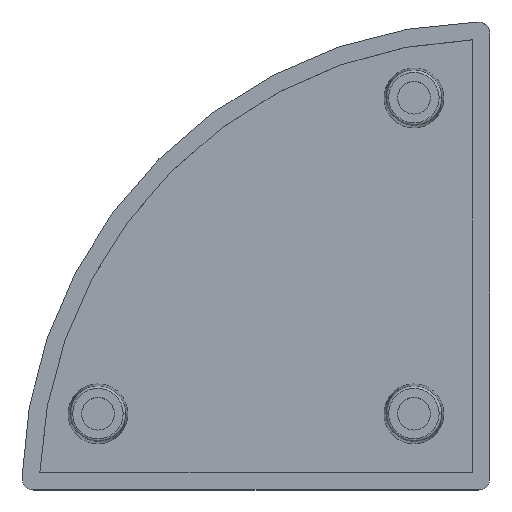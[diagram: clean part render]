
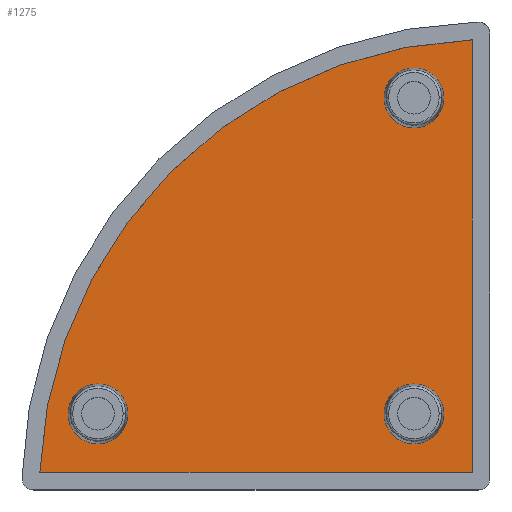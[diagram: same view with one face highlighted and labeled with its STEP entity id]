
A CAD part, top view. The second image highlights one B-rep face of the part: STEP entity #1275.
In plain terms, the highlighted planar face has unit normal (0, 0, 1).
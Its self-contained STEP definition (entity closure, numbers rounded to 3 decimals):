
#9 = EDGE_CURVE ( 'NONE', #228, #203, #1057, .T. ) ;
#30 = EDGE_CURVE ( 'NONE', #1172, #300, #1003, .T. ) ;
#90 = EDGE_CURVE ( 'NONE', #203, #228, #949, .T. ) ;
#94 = VERTEX_POINT ( 'NONE', #1222 ) ;
#138 = CARTESIAN_POINT ( 'NONE',  ( -1.5, 1.5, 1.5 ) ) ;
#147 = CARTESIAN_POINT ( 'NONE',  ( -6.5, 6.5, 1.5 ) ) ;
#148 = DIRECTION ( 'NONE',  ( 0., 0., 1. ) ) ;
#149 = EDGE_CURVE ( 'NONE', #1341, #286, #902, .T. ) ;
#153 = VERTEX_POINT ( 'NONE', #305 ) ;
#164 = VECTOR ( 'NONE', #694, 1000. ) ;
#183 = ORIENTED_EDGE ( 'NONE', *, *, #30, .T. ) ;
#185 = AXIS2_PLACEMENT_3D ( 'NONE', #1295, #1290, #1327 ) ;
#199 = LINE ( 'NONE', #386, #164 ) ;
#203 = VERTEX_POINT ( 'NONE', #888 ) ;
#205 = CARTESIAN_POINT ( 'NONE',  ( -33.5, 6.5, 1.5 ) ) ;
#228 = VERTEX_POINT ( 'NONE', #1179 ) ;
#240 = DIRECTION ( 'NONE',  ( 1., 0., 0. ) ) ;
#248 = EDGE_CURVE ( 'NONE', #94, #1172, #775, .T. ) ;
#266 = ORIENTED_EDGE ( 'NONE', *, *, #638, .F. ) ;
#276 = CIRCLE ( 'NONE', #1224, 2.55 ) ;
#284 = FACE_BOUND ( 'NONE', #637, .T. ) ;
#286 = VERTEX_POINT ( 'NONE', #989 ) ;
#300 = VERTEX_POINT ( 'NONE', #138 ) ;
#305 = CARTESIAN_POINT ( 'NONE',  ( -30.95, 6.5, 1.5 ) ) ;
#330 = CARTESIAN_POINT ( 'NONE',  ( 0., 0., 1.5 ) ) ;
#335 = PLANE ( 'NONE',  #434 ) ;
#339 = DIRECTION ( 'NONE',  ( 1., 0., 0. ) ) ;
#367 = CIRCLE ( 'NONE', #700, 2.55 ) ;
#370 = DIRECTION ( 'NONE',  ( 1., 0., 0. ) ) ;
#371 = FACE_OUTER_BOUND ( 'NONE', #642, .T. ) ;
#374 = DIRECTION ( 'NONE',  ( 1., 0., 0. ) ) ;
#378 = DIRECTION ( 'NONE',  ( 0., 0., 1. ) ) ;
#383 = EDGE_CURVE ( 'NONE', #1362, #153, #516, .T. ) ;
#386 = CARTESIAN_POINT ( 'NONE',  ( -1.5, 1.5, 1.5 ) ) ;
#388 = FACE_BOUND ( 'NONE', #1050, .T. ) ;
#404 = DIRECTION ( 'NONE',  ( 1., 0., 0. ) ) ;
#431 = DIRECTION ( 'NONE',  ( 0., 0., 1. ) ) ;
#434 = AXIS2_PLACEMENT_3D ( 'NONE', #330, #148, #339 ) ;
#516 = CIRCLE ( 'NONE', #756, 2.55 ) ;
#531 = ORIENTED_EDGE ( 'NONE', *, *, #149, .F. ) ;
#539 = ORIENTED_EDGE ( 'NONE', *, *, #248, .T. ) ;
#547 = ORIENTED_EDGE ( 'NONE', *, *, #90, .F. ) ;
#616 = EDGE_CURVE ( 'NONE', #153, #1362, #367, .T. ) ;
#630 = DIRECTION ( 'NONE',  ( 1., 0., 0. ) ) ;
#636 = EDGE_LOOP ( 'NONE', ( #547, #874 ) ) ;
#637 = EDGE_LOOP ( 'NONE', ( #899, #816 ) ) ;
#638 = EDGE_CURVE ( 'NONE', #286, #1341, #276, .T. ) ;
#642 = EDGE_LOOP ( 'NONE', ( #539, #183, #664 ) ) ;
#664 = ORIENTED_EDGE ( 'NONE', *, *, #699, .T. ) ;
#694 = DIRECTION ( 'NONE',  ( 0., 1., 0. ) ) ;
#699 = EDGE_CURVE ( 'NONE', #300, #94, #199, .T. ) ;
#700 = AXIS2_PLACEMENT_3D ( 'NONE', #205, #378, #374 ) ;
#756 = AXIS2_PLACEMENT_3D ( 'NONE', #763, #1180, #370 ) ;
#763 = CARTESIAN_POINT ( 'NONE',  ( -33.5, 6.5, 1.5 ) ) ;
#775 = CIRCLE ( 'NONE', #974, 38.5 ) ;
#816 = ORIENTED_EDGE ( 'NONE', *, *, #616, .F. ) ;
#874 = ORIENTED_EDGE ( 'NONE', *, *, #9, .F. ) ;
#876 = FACE_BOUND ( 'NONE', #636, .T. ) ;
#879 = DIRECTION ( 'NONE',  ( 0., 0., 1. ) ) ;
#888 = CARTESIAN_POINT ( 'NONE',  ( -9.05, 33.5, 1.5 ) ) ;
#899 = ORIENTED_EDGE ( 'NONE', *, *, #383, .F. ) ;
#902 = CIRCLE ( 'NONE', #185, 2.55 ) ;
#943 = CARTESIAN_POINT ( 'NONE',  ( -38.471, 1.5, 1.5 ) ) ;
#949 = CIRCLE ( 'NONE', #1296, 2.55 ) ;
#974 = AXIS2_PLACEMENT_3D ( 'NONE', #1107, #1097, #240 ) ;
#984 = VECTOR ( 'NONE', #630, 1000. ) ;
#989 = CARTESIAN_POINT ( 'NONE',  ( -9.05, 6.5, 1.5 ) ) ;
#991 = AXIS2_PLACEMENT_3D ( 'NONE', #1233, #879, #1185 ) ;
#1003 = LINE ( 'NONE', #943, #984 ) ;
#1022 = CARTESIAN_POINT ( 'NONE',  ( -3.95, 6.5, 1.5 ) ) ;
#1036 = DIRECTION ( 'NONE',  ( 0., 0., 1. ) ) ;
#1050 = EDGE_LOOP ( 'NONE', ( #266, #531 ) ) ;
#1057 = CIRCLE ( 'NONE', #991, 2.55 ) ;
#1060 = CARTESIAN_POINT ( 'NONE',  ( -6.5, 33.5, 1.5 ) ) ;
#1097 = DIRECTION ( 'NONE',  ( 0., 0., 1. ) ) ;
#1107 = CARTESIAN_POINT ( 'NONE',  ( 0., 0., 1.5 ) ) ;
#1108 = CARTESIAN_POINT ( 'NONE',  ( -38.471, 1.5, 1.5 ) ) ;
#1172 = VERTEX_POINT ( 'NONE', #1108 ) ;
#1179 = CARTESIAN_POINT ( 'NONE',  ( -3.95, 33.5, 1.5 ) ) ;
#1180 = DIRECTION ( 'NONE',  ( 0., 0., 1. ) ) ;
#1185 = DIRECTION ( 'NONE',  ( 1., 0., 0. ) ) ;
#1222 = CARTESIAN_POINT ( 'NONE',  ( -1.5, 38.471, 1.5 ) ) ;
#1224 = AXIS2_PLACEMENT_3D ( 'NONE', #147, #1036, #1261 ) ;
#1233 = CARTESIAN_POINT ( 'NONE',  ( -6.5, 33.5, 1.5 ) ) ;
#1261 = DIRECTION ( 'NONE',  ( 1., 0., 0. ) ) ;
#1275 = ADVANCED_FACE ( 'NONE', ( #876, #284, #388, #371 ), #335, .T. ) ;
#1290 = DIRECTION ( 'NONE',  ( 0., 0., 1. ) ) ;
#1295 = CARTESIAN_POINT ( 'NONE',  ( -6.5, 6.5, 1.5 ) ) ;
#1296 = AXIS2_PLACEMENT_3D ( 'NONE', #1060, #431, #404 ) ;
#1327 = DIRECTION ( 'NONE',  ( 1., 0., 0. ) ) ;
#1341 = VERTEX_POINT ( 'NONE', #1022 ) ;
#1362 = VERTEX_POINT ( 'NONE', #1366 ) ;
#1366 = CARTESIAN_POINT ( 'NONE',  ( -36.05, 6.5, 1.5 ) ) ;
